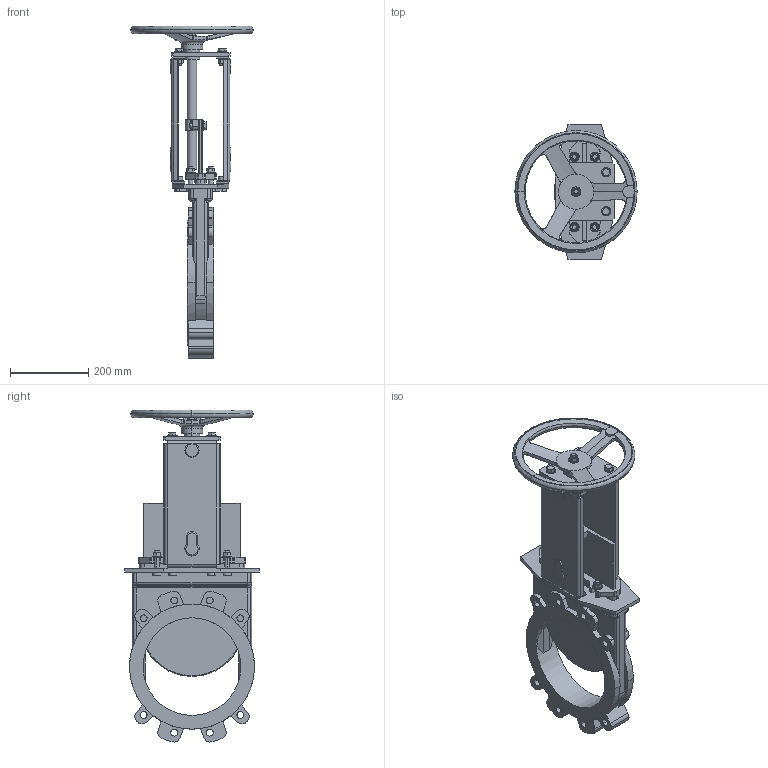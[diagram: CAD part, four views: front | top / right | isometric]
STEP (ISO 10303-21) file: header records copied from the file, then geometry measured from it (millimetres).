
FILE_DESCRIPTION(('STEP AP203'),'1');
FILE_NAME('F:/Alexander/tillfällig/NYABLOCK/WB11-DN250-PN10-HW.stp','2013-03-06T09:33:50',(' '),(' '),'Spatial InterOp 3D',' ',' ');
FILE_SCHEMA(('CONFIG_CONTROL_DESIGN'));
Length unit declared in the file: millimetre
Products named in the file (7): 1; 2; 3; 4; 5; 6; 7
Bounding box: 313 x 345 x 849.63 mm (x, y, z)
Volume: 7086532.7 mm3; surface area: 1035677 mm2
Topology: 7 solids, 15 shells, 1167 faces, 2894 edges, 1831 vertices
Faces by surface type: plane 495, cylinder 406, cone 210, torus 38, bspline 18
Entity records: 39613 total; most frequent: CARTESIAN_POINT 11778, DIRECTION 5900, ORIENTED_EDGE 5780, EDGE_CURVE 2890, AXIS2_PLACEMENT_3D 2298, VERTEX_POINT 1831, LINE 1304, VECTOR 1304
